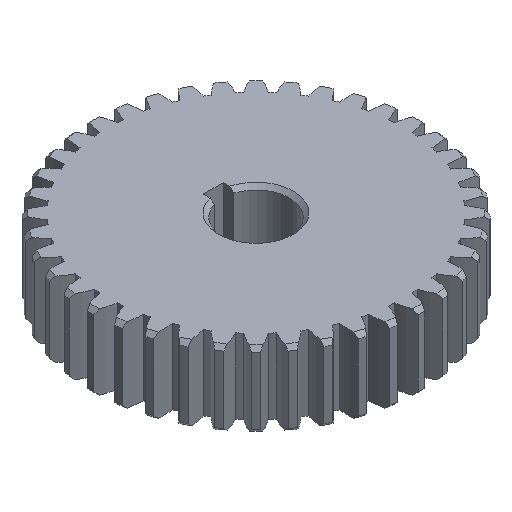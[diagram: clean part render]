
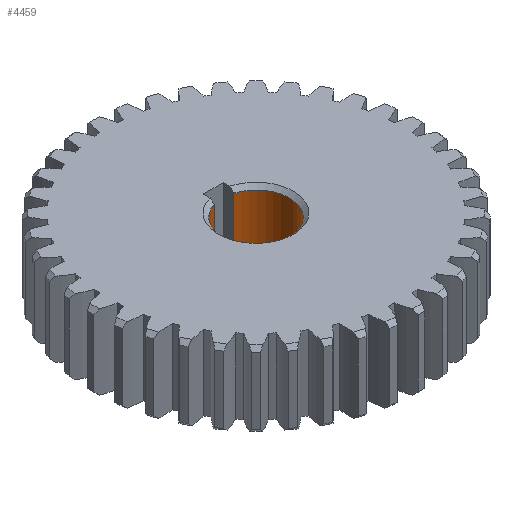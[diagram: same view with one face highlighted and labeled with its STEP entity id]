
A CAD part, isometric view. The second image highlights one B-rep face of the part: STEP entity #4459.
In plain terms, the highlighted cylindrical face has radius 8.5 mm (diameter 17 mm), a partial arc.
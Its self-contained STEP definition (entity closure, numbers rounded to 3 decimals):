
#274=LINE('',#7592,#446);
#280=LINE('',#7603,#452);
#446=VECTOR('',#6085,10.);
#452=VECTOR('',#6095,10.);
#615=CYLINDRICAL_SURFACE('',#5069,8.5);
#788=FACE_OUTER_BOUND('',#1045,.T.);
#1045=EDGE_LOOP('',(#3315,#3316,#3317,#3318));
#1460=CIRCLE('',#4904,8.5);
#1621=CIRCLE('',#5070,8.5);
#1870=VERTEX_POINT('',#7252);
#1873=VERTEX_POINT('',#7259);
#2036=VERTEX_POINT('',#7591);
#2039=VERTEX_POINT('',#7601);
#2376=EDGE_CURVE('',#1873,#1870,#1460,.T.);
#2540=EDGE_CURVE('',#2036,#1870,#274,.T.);
#2546=EDGE_CURVE('',#2039,#1873,#280,.T.);
#2547=EDGE_CURVE('',#2036,#2039,#1621,.T.);
#3315=ORIENTED_EDGE('',*,*,#2376,.F.);
#3316=ORIENTED_EDGE('',*,*,#2546,.F.);
#3317=ORIENTED_EDGE('',*,*,#2547,.F.);
#3318=ORIENTED_EDGE('',*,*,#2540,.T.);
#4459=ADVANCED_FACE('',(#788),#615,.F.);
#4904=AXIS2_PLACEMENT_3D('',#7263,#5756,#5757);
#5069=AXIS2_PLACEMENT_3D('',#7604,#6096,#6097);
#5070=AXIS2_PLACEMENT_3D('',#7605,#6098,#6099);
#5756=DIRECTION('center_axis',(0.,0.,-1.));
#5757=DIRECTION('ref_axis',(-1.,0.,0.));
#6085=DIRECTION('',(0.,0.,1.));
#6095=DIRECTION('',(0.,0.,1.));
#6096=DIRECTION('center_axis',(0.,0.,1.));
#6097=DIRECTION('ref_axis',(0.,-1.,0.));
#6098=DIRECTION('center_axis',(0.,0.,1.));
#6099=DIRECTION('ref_axis',(-1.,0.,0.));
#7252=CARTESIAN_POINT('',(-2.5,8.124,18.));
#7259=CARTESIAN_POINT('',(2.5,8.124,18.));
#7263=CARTESIAN_POINT('Origin',(0.,0.,18.));
#7591=CARTESIAN_POINT('',(-2.5,8.124,0.));
#7592=CARTESIAN_POINT('',(-2.5,8.124,0.));
#7601=CARTESIAN_POINT('',(2.5,8.124,0.));
#7603=CARTESIAN_POINT('',(2.5,8.124,0.));
#7604=CARTESIAN_POINT('Origin',(0.,0.,0.));
#7605=CARTESIAN_POINT('Origin',(0.,0.,0.));
